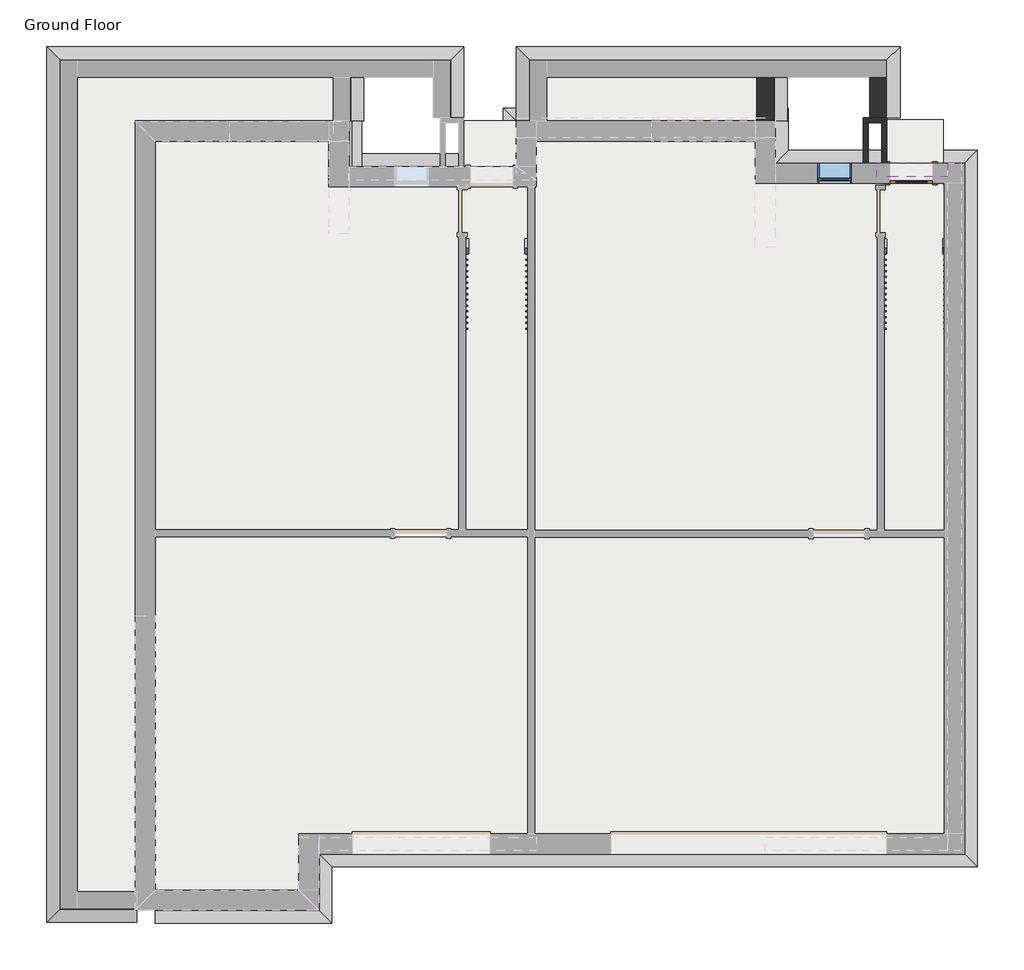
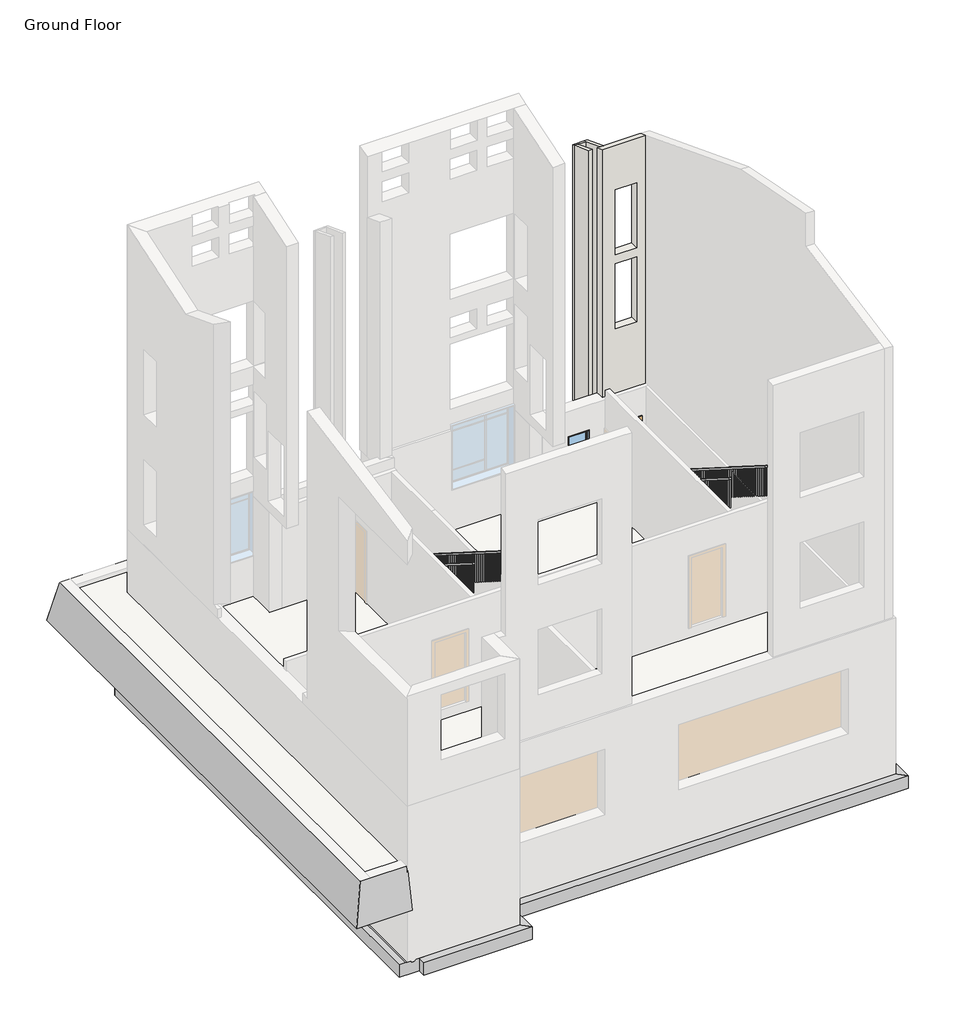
# One storey, part 3 of 3: 21 proxies, 6 walls, 4 railings, 3 slabs, 1 door, 1 window.
"""IFC4 building model written with IfcOpenShell, lengths in millimetres."""

from ifc_helpers import new_model, si_unit, frame, origin, place, context, project, spatial, polyline, outline, extrude, faceted_brep, transform, mapped, element, save
from components import door_13a3dc64, handrail_rectangular_a4179571, handrail_rectangular_83285e33, handrail_rectangular_929c261a, handrail_rectangular_e5931e99, condo_apartment_window3_condo_apartment_window3_d8555c09

model = new_model("IFC4")

# Units and contexts
model_context = context("Model", 3, world=origin())
ifc_project = project(units=[si_unit("LENGTHUNIT", "METRE", prefix="MILLI")], contexts=[model_context])

# Site, building, storey
site = spatial("IfcSite", under=ifc_project)
building = spatial("IfcBuilding", under=site)
storey = spatial("IfcBuildingStorey", under=building, Name="Ground Floor", Elevation=-3352.8)

# Proxies
placement = place(None, origin())
element("IfcBuildingElementProxy", 1, Name="Wall Sweeps", at=placement, inside=storey, context=model_context, shape_type="Brep", body=[
    faceted_brep([(-6803.6497339, 59248.536508, -5054.6), (-6981.4497339, 59070.736508, -5054.6), (-7133.8497339, 58918.336508, -5054.6), (-7174.2608864, 58877.9253554, -5095.0111525), (-7210.0497339, 58842.136508, -5095.0111525), (-7245.8385813, 58806.3476605, -5095.0111525), (-7286.2497339, 58765.936508, -5054.6), (-7616.4497339, 58435.736508, -5054.6), (-7616.4497339, 58435.736508, -5435.6), (-6803.6497339, 59248.536508, -5435.6), (-11038.0747339, 59248.536508, -5054.6), (-11038.0747339, 59248.536508, -5435.6), (-10225.2747339, 58435.736508, -5435.6), (-10225.2747339, 58435.736508, -5054.6), (-10453.8747339, 58664.336508, -5054.6), (-10555.4747339, 58765.936508, -5054.6), (-10595.8858864, 58806.3476605, -5095.0111525), (-10631.6747339, 58842.136508, -5095.0111525), (-10667.4635813, 58877.9253554, -5095.0111525), (-10707.8747339, 58918.336508, -5054.6), (-10809.4747339, 59019.936508, -5054.6), (-10860.2747339, 59070.736508, -5054.6), (-7387.8497339, 58918.336508, -5054.6), (-7387.8497339, 58877.9253554, -5095.0111525), (-7387.8497339, 58806.3476605, -5095.0111525), (-7387.8497339, 58765.936508, -5054.6)], [[[0, 1, 2, 3, 4, 5, 6, 7, 8, 9]], [[10, 11, 12, 13, 14, 15, 16, 17, 18, 19, 20, 21]], [[1, 0, 10, 21]], [[2, 1, 21, 20, 19, 22]], [[3, 2, 22, 19, 18, 23]], [[4, 3, 23, 18, 17]], [[5, 4, 17, 16, 24]], [[6, 5, 24, 16, 15, 25]], [[7, 6, 25, 15, 14, 13]], [[8, 7, 13, 12]], [[9, 8, 12, 11]], [[0, 9, 11, 10]]]),
])
element("IfcBuildingElementProxy", 2, Name="Wall Sweeps", at=placement, inside=storey, context=model_context, shape_type="Brep", body=[
    faceted_brep([(-10453.8747339, 45652.499008, -5054.6), (-10453.8747339, 45652.499008, -5435.6), (-10453.8747339, 44839.699008, -5435.6), (-10453.8747339, 44839.699008, -5054.6), (-10453.8747339, 45169.899008, -5054.6), (-10453.8747339, 45210.3101605, -5095.0111525), (-10453.8747339, 45246.099008, -5095.0111525), (-10453.8747339, 45281.8878554, -5095.0111525), (-10453.8747339, 45322.299008, -5054.6), (-10453.8747339, 45474.699008, -5054.6), (-8146.8997339, 45652.499008, -5054.6), (-7969.0997339, 45474.699008, -5054.6), (-7816.6997339, 45322.299008, -5054.6), (-7776.2885813, 45281.8878554, -5095.0111525), (-7740.4997339, 45246.099008, -5095.0111525), (-7704.7108864, 45210.3101605, -5095.0111525), (-7664.2997339, 45169.899008, -5054.6), (-7334.0997339, 44839.699008, -5054.6), (-7334.0997339, 44839.699008, -5435.6), (-8146.8997339, 45652.499008, -5435.6), (-10225.2747339, 45169.899008, -5054.6), (-10225.2747339, 45210.3101605, -5095.0111525), (-10225.2747339, 45281.8878554, -5095.0111525), (-10225.2747339, 45322.299008, -5054.6)], [[[0, 1, 2, 3, 4, 5, 6, 7, 8, 9]], [[10, 11, 12, 13, 14, 15, 16, 17, 18, 19]], [[1, 0, 10, 19]], [[2, 1, 19, 18]], [[3, 2, 18, 17]], [[4, 3, 17, 16, 20]], [[5, 4, 20, 16, 15, 21]], [[6, 5, 21, 15, 14]], [[7, 6, 14, 13, 22]], [[8, 7, 22, 13, 12, 23]], [[9, 8, 23, 12, 11]], [[0, 9, 11, 10]]]),
])
element("IfcBuildingElementProxy", 3, Name="Wall Sweeps", at=placement, inside=storey, context=model_context, shape_type="Brep", body=[
    faceted_brep([(-8146.8997339, 45652.499008, -5054.6), (-8146.8997339, 45652.499008, -5435.6), (-7334.0997339, 44839.699008, -5435.6), (-7334.0997339, 44839.699008, -5054.6), (-7664.2997339, 45169.899008, -5054.6), (-7704.7108864, 45210.3101605, -5095.0111525), (-7740.4997339, 45246.099008, -5095.0111525), (-7776.2885813, 45281.8878554, -5095.0111525), (-7816.6997339, 45322.299008, -5054.6), (-7969.0997339, 45474.699008, -5054.6), (-8146.8997339, 46648.3255538, -5054.6), (-7969.0997339, 46470.5255538, -5054.6), (-7816.6997339, 46318.1255538, -5054.6), (-7776.2885813, 46277.7144013, -5095.0111525), (-7740.4997339, 46241.9255538, -5095.0111525), (-7704.7108864, 46206.1367064, -5095.0111525), (-7664.2997339, 46165.7255538, -5054.6), (-7334.0997339, 45835.5255538, -5054.6), (-7334.0997339, 45835.5255538, -5435.6), (-8146.8997339, 46648.3255538, -5435.6), (-7664.2997339, 45423.899008, -5054.6), (-7704.7108864, 45423.899008, -5095.0111525), (-7776.2885813, 45423.899008, -5095.0111525), (-7816.6997339, 45423.899008, -5054.6)], [[[0, 1, 2, 3, 4, 5, 6, 7, 8, 9]], [[10, 11, 12, 13, 14, 15, 16, 17, 18, 19]], [[1, 0, 10, 19]], [[2, 1, 19, 18]], [[3, 2, 18, 17]], [[4, 3, 17, 16, 20]], [[5, 4, 20, 16, 15, 21]], [[6, 5, 21, 15, 14]], [[7, 6, 14, 13, 22]], [[8, 7, 22, 13, 12, 23]], [[9, 8, 23, 12, 11]], [[0, 9, 11, 10]]]),
])
element("IfcBuildingElementProxy", 4, Name="Wall Sweeps", at=placement, inside=storey, context=model_context, shape_type="Brep", body=[
    faceted_brep([(-8146.8997339, 46648.3255538, -5054.6), (-8146.8997339, 46648.3255538, -5435.6), (-7334.0997339, 45835.5255538, -5435.6), (-7334.0997339, 45835.5255538, -5054.6), (-7664.2997339, 46165.7255538, -5054.6), (-7704.7108864, 46206.1367064, -5095.0111525), (-7740.4997339, 46241.9255538, -5095.0111525), (-7776.2885813, 46277.7144013, -5095.0111525), (-7816.6997339, 46318.1255538, -5054.6), (-7969.0997339, 46470.5255538, -5054.6), (3261.6480231, 46648.3255538, -5054.6), (3439.4480231, 46470.5255538, -5054.6), (3591.8480231, 46318.1255538, -5054.6), (3632.2591756, 46277.7144013, -5095.0111525), (3668.0480231, 46241.9255538, -5095.0111525), (3703.8368706, 46206.1367064, -5095.0111525), (3744.2480231, 46165.7255538, -5054.6), (4074.4480231, 45835.5255538, -5054.6), (4074.4480231, 45835.5255538, -5435.6), (3261.6480231, 46648.3255538, -5435.6), (-7562.6997339, 46165.7255538, -5054.6), (-7562.6997339, 46206.1367064, -5095.0111525), (-7562.6997339, 46277.7144013, -5095.0111525), (-7562.6997339, 46318.1255538, -5054.6)], [[[0, 1, 2, 3, 4, 5, 6, 7, 8, 9]], [[10, 11, 12, 13, 14, 15, 16, 17, 18, 19]], [[1, 0, 10, 19]], [[2, 1, 19, 18]], [[3, 2, 18, 17]], [[4, 3, 17, 16, 20]], [[5, 4, 20, 16, 15, 21]], [[6, 5, 21, 15, 14]], [[7, 6, 14, 13, 22]], [[8, 7, 22, 13, 12, 23]], [[9, 8, 23, 12, 11]], [[0, 9, 11, 10]]]),
])
element("IfcBuildingElementProxy", 5, Name="Wall Sweeps", at=placement, inside=storey, context=model_context, shape_type="Brep", body=[
    faceted_brep([(3261.6480231, 46648.3255538, -5054.6), (3261.6480231, 46648.3255538, -5435.6), (4074.4480231, 45835.5255538, -5435.6), (4074.4480231, 45835.5255538, -5054.6), (3744.2480231, 46165.7255538, -5054.6), (3703.8368706, 46206.1367064, -5095.0111525), (3668.0480231, 46241.9255538, -5095.0111525), (3632.2591756, 46277.7144013, -5095.0111525), (3591.8480231, 46318.1255538, -5054.6), (3439.4480231, 46470.5255538, -5054.6), (3261.6480231, 57687.7489967, -5054.6), (3439.4480231, 57865.5489967, -5054.6), (3591.8480231, 58017.9489967, -5054.6), (3632.2591756, 58058.3601493, -5095.0111525), (3668.0480231, 58094.1489967, -5095.0111525), (3703.8368706, 58129.9378442, -5095.0111525), (3744.2480231, 58170.3489967, -5054.6), (4074.4480231, 58500.5489967, -5054.6), (4074.4480231, 58500.5489967, -5435.6), (3261.6480231, 57687.7489967, -5435.6), (3744.2480231, 57916.3489967, -5054.6), (3744.2480231, 46419.7255538, -5054.6), (3703.8368706, 57916.3489967, -5095.0111525), (3703.8368706, 46419.7255538, -5095.0111525), (3632.2591756, 57916.3489967, -5095.0111525), (3632.2591756, 46419.7255538, -5095.0111525), (3591.8480231, 57916.3489967, -5054.6), (3591.8480231, 46419.7255538, -5054.6)], [[[0, 1, 2, 3, 4, 5, 6, 7, 8, 9]], [[10, 11, 12, 13, 14, 15, 16, 17, 18, 19]], [[1, 0, 10, 19]], [[2, 1, 19, 18]], [[3, 2, 18, 17]], [[4, 3, 17, 16, 20, 21]], [[5, 4, 21, 20, 16, 15, 22, 23]], [[6, 5, 23, 22, 15, 14]], [[7, 6, 14, 13, 24, 25]], [[8, 7, 25, 24, 13, 12, 26, 27]], [[9, 8, 27, 26, 12, 11]], [[0, 9, 11, 10]]]),
])
element("IfcBuildingElementProxy", 6, Name="Wall Sweeps", at=placement, inside=storey, context=model_context, shape_type="Brep", body=[
    faceted_brep([(-6803.6497339, 59248.536508, -5054.6), (-6803.6497339, 59248.536508, -5435.6), (-7616.4497339, 58435.736508, -5435.6), (-7616.4497339, 58435.736508, -5054.6), (-7286.2497339, 58765.936508, -5054.6), (-7245.8385813, 58806.3476605, -5095.0111525), (-7210.0497339, 58842.136508, -5095.0111525), (-7174.2608864, 58877.9253554, -5095.0111525), (-7133.8497339, 58918.336508, -5054.6), (-6981.4497339, 59070.736508, -5054.6), (-6803.6497339, 58214.7989967, -5054.6), (-6981.4497339, 58214.7989967, -5054.6), (-7133.8497339, 58214.7989967, -5054.6), (-7174.2608864, 58214.7989967, -5095.0111525), (-7210.0497339, 58214.7989967, -5095.0111525), (-7245.8385813, 58214.7989967, -5095.0111525), (-7286.2497339, 58214.7989967, -5054.6), (-7616.4497339, 58214.7989967, -5054.6), (-7616.4497339, 58214.7989967, -5435.6), (-6803.6497339, 58214.7989967, -5435.6), (-7286.2497339, 58443.3989967, -5054.6), (-7245.8385813, 58443.3989967, -5095.0111525), (-7174.2608864, 58443.3989967, -5095.0111525), (-7133.8497339, 58443.3989967, -5054.6)], [[[0, 1, 2, 3, 4, 5, 6, 7, 8, 9]], [[10, 11, 12, 13, 14, 15, 16, 17, 18, 19]], [[1, 0, 10, 19]], [[2, 1, 19, 18]], [[3, 2, 18, 17]], [[4, 3, 17, 16, 20]], [[5, 4, 20, 16, 15, 21]], [[6, 5, 21, 15, 14]], [[7, 6, 14, 13, 22]], [[8, 7, 22, 13, 12, 23]], [[9, 8, 23, 12, 11]], [[0, 9, 11, 10]]]),
])
element("IfcBuildingElementProxy", 7, Name="Wall Sweeps", at=placement, inside=storey, context=model_context, shape_type="Brep", body=[
    faceted_brep([(-3496.7497339, 57630.5989967, -5054.6), (-3674.5497339, 57808.3989967, -5054.6), (-3826.9497339, 57960.7989967, -5054.6), (-3867.3608864, 58001.2101493, -5095.0111525), (-3903.1497339, 58036.9989967, -5095.0111525), (-3938.9385813, 58072.7878442, -5095.0111525), (-3979.3497339, 58113.1989967, -5054.6), (-4309.5497339, 58443.3989967, -5054.6), (-4309.5497339, 58443.3989967, -5435.6), (-3496.7497339, 57630.5989967, -5435.6), (-3496.7497339, 58435.736508, -5054.6), (-3496.7497339, 58435.736508, -5435.6), (-4309.5497339, 59248.536508, -5435.6), (-4309.5497339, 59248.536508, -5054.6), (-3979.3497339, 58918.336508, -5054.6), (-3938.9385813, 58877.9253554, -5095.0111525), (-3903.1497339, 58842.136508, -5095.0111525), (-3867.3608864, 58806.3476605, -5095.0111525), (-3826.9497339, 58765.936508, -5054.6), (-3674.5497339, 58613.536508, -5054.6), (-3826.9497339, 58214.7989967, -5054.6), (-3867.3608864, 58214.7989967, -5095.0111525), (-3938.9385813, 58214.7989967, -5095.0111525), (-3979.3497339, 58214.7989967, -5054.6)], [[[0, 1, 2, 3, 4, 5, 6, 7, 8, 9]], [[10, 11, 12, 13, 14, 15, 16, 17, 18, 19]], [[1, 0, 10, 19]], [[2, 1, 19, 18, 20]], [[3, 2, 20, 18, 17, 21]], [[4, 3, 21, 17, 16]], [[5, 4, 16, 15, 22]], [[6, 5, 22, 15, 14, 23]], [[7, 6, 23, 14, 13]], [[8, 7, 13, 12]], [[9, 8, 12, 11]], [[0, 9, 11, 10]]]),
])
element("IfcBuildingElementProxy", 8, Name="Wall Sweeps", at=placement, inside=storey, context=model_context, shape_type="Brep", body=[
    faceted_brep([(-3496.7497339, 58435.736508, -5054.6), (-3674.5497339, 58613.536508, -5054.6), (-3826.9497339, 58765.936508, -5054.6), (-3867.3608864, 58806.3476605, -5095.0111525), (-3903.1497339, 58842.136508, -5095.0111525), (-3938.9385813, 58877.9253554, -5095.0111525), (-3979.3497339, 58918.336508, -5054.6), (-4309.5497339, 59248.536508, -5054.6), (-4309.5497339, 59248.536508, -5435.6), (-3496.7497339, 58435.736508, -5435.6), (-83.3622339, 58435.736508, -5054.6), (-83.3622339, 58435.736508, -5435.6), (729.4377661, 59248.536508, -5435.6), (729.4377661, 59248.536508, -5054.6), (399.2377661, 58918.336508, -5054.6), (358.8266136, 58877.9253554, -5095.0111525), (323.0377661, 58842.136508, -5095.0111525), (287.2489187, 58806.3476605, -5095.0111525), (246.8377661, 58765.936508, -5054.6), (94.4377661, 58613.536508, -5054.6), (145.2377661, 58765.936508, -5054.6), (-3725.3497339, 58765.936508, -5054.6), (145.2377661, 58806.3476605, -5095.0111525), (-3725.3497339, 58806.3476605, -5095.0111525), (145.2377661, 58877.9253554, -5095.0111525), (-3725.3497339, 58877.9253554, -5095.0111525), (145.2377661, 58918.336508, -5054.6), (-3725.3497339, 58918.336508, -5054.6)], [[[0, 1, 2, 3, 4, 5, 6, 7, 8, 9]], [[10, 11, 12, 13, 14, 15, 16, 17, 18, 19]], [[1, 0, 10, 19]], [[2, 1, 19, 18, 20, 21]], [[3, 2, 21, 20, 18, 17, 22, 23]], [[4, 3, 23, 22, 17, 16]], [[5, 4, 16, 15, 24, 25]], [[6, 5, 25, 24, 15, 14, 26, 27]], [[7, 6, 27, 26, 14, 13]], [[8, 7, 13, 12]], [[9, 8, 12, 11]], [[0, 9, 11, 10]]]),
])
element("IfcBuildingElementProxy", 9, Name="Wall Sweeps", at=placement, inside=storey, context=model_context, shape_type="Brep", body=[
    faceted_brep([(-83.3622339, 58435.736508, -5054.6), (94.4377661, 58613.536508, -5054.6), (246.8377661, 58765.936508, -5054.6), (287.2489187, 58806.3476605, -5095.0111525), (323.0377661, 58842.136508, -5095.0111525), (358.8266136, 58877.9253554, -5095.0111525), (399.2377661, 58918.336508, -5054.6), (729.4377661, 59248.536508, -5054.6), (729.4377661, 59248.536508, -5435.6), (-83.3622339, 58435.736508, -5435.6), (-83.3622339, 57687.7489967, -5054.6), (-83.3622339, 57687.7489967, -5435.6), (729.4377661, 58500.5489967, -5435.6), (729.4377661, 58500.5489967, -5054.6), (399.2377661, 58170.3489967, -5054.6), (358.8266136, 58129.9378442, -5095.0111525), (323.0377661, 58094.1489967, -5095.0111525), (287.2489187, 58058.3601493, -5095.0111525), (246.8377661, 58017.9489967, -5054.6), (94.4377661, 57865.5489967, -5054.6)], [[[0, 1, 2, 3, 4, 5, 6, 7, 8, 9]], [[10, 11, 12, 13, 14, 15, 16, 17, 18, 19]], [[1, 0, 10, 19]], [[2, 1, 19, 18]], [[3, 2, 18, 17]], [[4, 3, 17, 16]], [[5, 4, 16, 15]], [[6, 5, 15, 14]], [[7, 6, 14, 13]], [[8, 7, 13, 12]], [[9, 8, 12, 11]], [[0, 9, 11, 10]]]),
])
element("IfcBuildingElementProxy", 10, Name="Wall Sweeps", at=placement, inside=storey, context=model_context, shape_type="Brep", body=[
    faceted_brep([(-83.3622339, 57687.7489967, -5054.6), (94.4377661, 57865.5489967, -5054.6), (246.8377661, 58017.9489967, -5054.6), (287.2489187, 58058.3601493, -5095.0111525), (323.0377661, 58094.1489967, -5095.0111525), (358.8266136, 58129.9378442, -5095.0111525), (399.2377661, 58170.3489967, -5054.6), (729.4377661, 58500.5489967, -5054.6), (729.4377661, 58500.5489967, -5435.6), (-83.3622339, 57687.7489967, -5435.6), (3261.6480231, 57687.7489967, -5054.6), (3261.6480231, 57687.7489967, -5435.6), (4074.4480231, 58500.5489967, -5435.6), (4074.4480231, 58500.5489967, -5054.6), (3744.2480231, 58170.3489967, -5054.6), (3703.8368706, 58129.9378442, -5095.0111525), (3668.0480231, 58094.1489967, -5095.0111525), (3632.2591756, 58058.3601493, -5095.0111525), (3591.8480231, 58017.9489967, -5054.6), (3439.4480231, 57865.5489967, -5054.6), (500.8377661, 58017.9489967, -5054.6), (500.8377661, 58058.3601493, -5095.0111525), (500.8377661, 58129.9378442, -5095.0111525), (500.8377661, 58170.3489967, -5054.6)], [[[0, 1, 2, 3, 4, 5, 6, 7, 8, 9]], [[10, 11, 12, 13, 14, 15, 16, 17, 18, 19]], [[1, 0, 10, 19]], [[2, 1, 19, 18, 20]], [[3, 2, 20, 18, 17, 21]], [[4, 3, 21, 17, 16]], [[5, 4, 16, 15, 22]], [[6, 5, 22, 15, 14, 23]], [[7, 6, 23, 14, 13]], [[8, 7, 13, 12]], [[9, 8, 12, 11]], [[0, 9, 11, 10]]]),
])
element("IfcBuildingElementProxy", 11, Name="Wall Sweeps", at=placement, inside=storey, context=model_context, shape_type="Brep", body=[
    faceted_brep([(-7387.8497339, 57630.5989967, -5054.6), (-7387.8497339, 57808.3989967, -5054.6), (-7387.8497339, 57960.7989967, -5054.6), (-7387.8497339, 58001.2101493, -5095.0111525), (-7387.8497339, 58036.9989967, -5095.0111525), (-7387.8497339, 58072.7878442, -5095.0111525), (-7387.8497339, 58113.1989967, -5054.6), (-7387.8497339, 58443.3989967, -5054.6), (-7387.8497339, 58443.3989967, -5435.6), (-7387.8497339, 57630.5989967, -5435.6), (-3496.7497339, 57630.5989967, -5054.6), (-3496.7497339, 57630.5989967, -5435.6), (-4309.5497339, 58443.3989967, -5435.6), (-4309.5497339, 58443.3989967, -5054.6), (-3979.3497339, 58113.1989967, -5054.6), (-3938.9385813, 58072.7878442, -5095.0111525), (-3903.1497339, 58036.9989967, -5095.0111525), (-3867.3608864, 58001.2101493, -5095.0111525), (-3826.9497339, 57960.7989967, -5054.6), (-3674.5497339, 57808.3989967, -5054.6), (-7032.2497339, 57960.7989967, -5054.6), (-7032.2497339, 58001.2101493, -5095.0111525), (-7032.2497339, 58072.7878442, -5095.0111525), (-7032.2497339, 58113.1989967, -5054.6)], [[[0, 1, 2, 3, 4, 5, 6, 7, 8, 9]], [[10, 11, 12, 13, 14, 15, 16, 17, 18, 19]], [[1, 0, 10, 19]], [[2, 1, 19, 18, 20]], [[3, 2, 20, 18, 17, 21]], [[4, 3, 21, 17, 16]], [[5, 4, 16, 15, 22]], [[6, 5, 22, 15, 14, 23]], [[7, 6, 23, 14, 13]], [[8, 7, 13, 12]], [[9, 8, 12, 11]], [[0, 9, 11, 10]]]),
])
element("IfcBuildingElementProxy", 12, Name="Wall Sweeps", at=placement, inside=storey, context=model_context, shape_type="Brep", body=[
    faceted_brep([(-11038.0747339, 59248.536508, -5054.6), (-10860.2747339, 59070.736508, -5054.6), (-10809.4747339, 59019.936508, -5054.6), (-10707.8747339, 58918.336508, -5054.6), (-10667.4635813, 58877.9253554, -5095.0111525), (-10631.6747339, 58842.136508, -5095.0111525), (-10595.8858864, 58806.3476605, -5095.0111525), (-10555.4747339, 58765.936508, -5054.6), (-10453.8747339, 58664.336508, -5054.6), (-10225.2747339, 58435.736508, -5054.6), (-10225.2747339, 58435.736508, -5435.6), (-11038.0747339, 59248.536508, -5435.6), (-11038.0747339, 45068.299008, -5054.6), (-11038.0747339, 45068.299008, -5435.6), (-10225.2747339, 45068.299008, -5435.6), (-10225.2747339, 45068.299008, -5054.6), (-10555.4747339, 45068.299008, -5054.6), (-10595.8858864, 45068.299008, -5095.0111525), (-10631.6747339, 45068.299008, -5095.0111525), (-10667.4635813, 45068.299008, -5095.0111525), (-10707.8747339, 45068.299008, -5054.6), (-10860.2747339, 45068.299008, -5054.6), (-10707.8747339, 45169.899008, -5054.6), (-10667.4635813, 45210.3101605, -5095.0111525), (-10595.8858864, 45281.8878554, -5095.0111525), (-10555.4747339, 45322.299008, -5054.6)], [[[0, 1, 2, 3, 4, 5, 6, 7, 8, 9, 10, 11]], [[12, 13, 14, 15, 16, 17, 18, 19, 20, 21]], [[1, 0, 12, 21]], [[3, 2, 1, 21, 20, 22]], [[4, 3, 22, 20, 19, 23]], [[5, 4, 23, 19, 18]], [[6, 5, 18, 17, 24]], [[7, 6, 24, 17, 16, 25]], [[9, 8, 7, 25, 16, 15]], [[10, 9, 15, 14]], [[11, 10, 14, 13]], [[0, 11, 13, 12]]]),
])
element("IfcBuildingElementProxy", 13, Name="Wall Sweeps", at=placement, inside=storey, context=model_context, shape_type="Brep", body=[
    faceted_brep([(-12378.5249686, 44856.7105351, -3352.8), (-12141.5364957, 45093.699008, -3352.8), (-12141.5364957, 45093.699008, -2133.6), (-12378.5249686, 60335.7374809, -3352.8), (-12141.5364957, 60098.749008, -2133.6), (-12141.5364957, 60098.749008, -3352.8)], [[[0, 1, 2]], [[3, 4, 5]], [[1, 0, 3, 5]], [[2, 1, 5, 4]], [[0, 2, 4, 3]]]),
])
element("IfcBuildingElementProxy", 14, Name="Wall Sweeps", at=placement, inside=storey, context=model_context, shape_type="Brep", body=[
    faceted_brep([(-12378.5249686, 60335.7374809, -3352.8), (-12141.5364957, 60098.749008, -3352.8), (-12141.5364957, 60098.749008, -2133.6), (-5004.3411158, 60335.7374809, -3352.8), (-5241.3295887, 60098.749008, -2133.6), (-5241.3295887, 60098.749008, -3352.8), (-5546.1295887, 60098.749008, -3352.8), (-11836.7364957, 60098.749008, -3352.8)], [[[0, 1, 2]], [[3, 4, 5]], [[1, 0, 3, 5, 6, 7]], [[2, 1, 7, 6, 5, 4]], [[0, 2, 4, 3]]]),
])
element("IfcBuildingElementProxy", 15, Name="Wall Sweeps", at=placement, inside=storey, context=model_context, shape_type="Brep", body=[
    faceted_brep([(-5004.3411158, 60335.7374809, -3352.8), (-5241.3295887, 60098.749008, -3352.8), (-5241.3295887, 60098.749008, -2133.6), (-5004.3411158, 59074.111508, -3352.8), (-5241.3295887, 59074.111508, -2133.6), (-5241.3295887, 59074.111508, -3352.8)], [[[0, 1, 2]], [[3, 4, 5]], [[1, 0, 3, 5]], [[2, 1, 5, 4]], [[0, 2, 4, 3]]]),
])
element("IfcBuildingElementProxy", 16, Name="Wall Sweeps", at=placement, inside=storey, context=model_context, shape_type="Brep", body=[
    faceted_brep([(-4080.9497339, 59019.936508, -3352.8), (-3843.961261, 59019.936508, -3352.8), (-3843.961261, 59019.936508, -2133.6), (-4080.9497339, 60335.7374809, -3352.8), (-3843.961261, 60098.749008, -2133.6), (-3843.961261, 60098.749008, -3352.8)], [[[0, 1, 2]], [[3, 4, 5]], [[1, 0, 3, 5]], [[2, 1, 5, 4]], [[0, 2, 4, 3]]]),
])
element("IfcBuildingElementProxy", 17, Name="Wall Sweeps", at=placement, inside=storey, context=model_context, shape_type="Brep", body=[
    faceted_brep([(-4080.9497339, 60335.7374809, -3352.8), (-3843.961261, 60098.749008, -3352.8), (-3843.961261, 60098.749008, -2133.6), (2708.5390328, 60335.7374809, -3352.8), (2471.5505599, 60098.749008, -2133.6), (2471.5505599, 60098.749008, -3352.8), (-3539.161261, 60098.749008, -3352.8)], [[[0, 1, 2]], [[3, 4, 5]], [[1, 0, 3, 5, 6]], [[2, 1, 6, 5, 4]], [[0, 2, 4, 3]]]),
])
element("IfcBuildingElementProxy", 18, Name="Wall Sweeps", at=placement, inside=storey, context=model_context, shape_type="Brep", body=[
    faceted_brep([(2708.5390328, 60335.7374809, -3352.8), (2471.5505599, 60098.749008, -3352.8), (2471.5505599, 60098.749008, -2133.6), (2708.5390328, 59074.111508, -3352.8), (2471.5505599, 59074.111508, -2133.6), (2471.5505599, 59074.111508, -3352.8), (2471.5505599, 59793.949008, -3352.8)], [[[0, 1, 2]], [[3, 4, 5]], [[1, 0, 3, 5, 6]], [[2, 1, 6, 5, 4]], [[0, 2, 4, 3]]]),
])
element("IfcBuildingElementProxy", 19, Name="Wall Sweeps", at=placement, inside=storey, context=model_context, shape_type="SweptSolid", body=[
    extrude(outline(polyline([(-3352.8, -6769.861261), (-2133.6, -7006.8497339), (-3352.8, -7006.8497339), (-3352.8, -6769.861261)])), frame((0.0, 59019.936508, 0.0), z_axis=(0.0, 1.0, 0.0), x_axis=(0.0, 0.0, 1.0)), (0.0, 0.0, 1.0), 774.0125),
])
element("IfcBuildingElementProxy", 20, Name="Wall Sweeps", at=placement, inside=storey, context=model_context, shape_type="SweptSolid", body=[
    extrude(outline(polyline([(-3352.8, 712.426239), (-2133.6, 475.4377661), (-3352.8, 475.4377661), (-3352.8, 712.426239)])), frame((0.0, 59019.936508, 0.0), z_axis=(0.0, 1.0, 0.0), x_axis=(0.0, 0.0, 1.0)), (0.0, 0.0, 1.0), 774.0125),
])
element("IfcBuildingElementProxy", 21, Name="Wall Sweeps", at=placement, inside=storey, context=model_context, shape_type="Brep", body=[
    faceted_brep([(-12378.5249686, 44856.7105351, -3352.8), (-12141.5364957, 45093.699008, -2133.6), (-12141.5364957, 45093.699008, -3352.8), (-10785.6622339, 44856.7105351, -3352.8), (-10785.6622339, 45093.699008, -3352.8), (-10785.6622339, 45093.699008, -2133.6), (-11836.7364957, 45093.699008, -3352.8)], [[[0, 1, 2]], [[3, 4, 5]], [[1, 0, 3, 5]], [[2, 1, 5, 4, 6]], [[0, 2, 6, 4, 3]]]),
])

# Door
door_shape = door_13a3dc64(model_context)
element("IfcDoor", 22, ObjectType="Single-Glass 1 : 30\" x 84\"", at=placement, inside=storey, context=model_context, shape_type="MappedRepresentation", body=[
    mapped(door_shape, transform((2906.0480231, 58094.1489967, -3352.8), x_axis=(-1.0, 0.0, 0.0), y_axis=(0.0, -1.0, 0.0), z_axis=(0.0, 0.0, 1.0))),
])

# Railings
handrail_rectangular_shape = handrail_rectangular_a4179571(model_context)
element("IfcRailing", 23, ObjectType="Handrail - Rectangular", at=placement, inside=storey, context=model_context, shape_type="MappedRepresentation", body=[
    mapped(handrail_rectangular_shape, transform((0.0, 0.0, 0.0), x_axis=(1.0, 0.0, 0.0), y_axis=(0.0, 1.0, 0.0), z_axis=(0.0, 0.0, 1.0))),
])
handrail_rectangular_2_shape = handrail_rectangular_83285e33(model_context)
element("IfcRailing", 24, ObjectType="Handrail - Rectangular", at=placement, inside=storey, context=model_context, shape_type="MappedRepresentation", body=[
    mapped(handrail_rectangular_2_shape, transform((0.0, 0.0, 0.0), x_axis=(1.0, 0.0, 0.0), y_axis=(0.0, 1.0, 0.0), z_axis=(0.0, 0.0, 1.0))),
])
handrail_rectangular_3_shape = handrail_rectangular_929c261a(model_context)
element("IfcRailing", 25, ObjectType="Handrail - Rectangular", at=placement, inside=storey, context=model_context, shape_type="MappedRepresentation", body=[
    mapped(handrail_rectangular_3_shape, transform((0.0, 0.0, 0.0), x_axis=(1.0, 0.0, 0.0), y_axis=(0.0, 1.0, 0.0), z_axis=(0.0, 0.0, 1.0))),
])
handrail_rectangular_4_shape = handrail_rectangular_e5931e99(model_context)
element("IfcRailing", 26, ObjectType="Handrail - Rectangular", at=placement, inside=storey, context=model_context, shape_type="MappedRepresentation", body=[
    mapped(handrail_rectangular_4_shape, transform((0.0, 0.0, 0.0), x_axis=(1.0, 0.0, 0.0), y_axis=(0.0, 1.0, 0.0), z_axis=(0.0, 0.0, 1.0))),
])

# Slabs
element("IfcSlab", 27, ObjectType="Generic - 12\"", at=placement, inside=storey, context=model_context, shape_type="SweptSolid", body=[
    extrude(outline(polyline([(-7387.8497339, 58664.336508), (-7387.8497339, 57859.199008), (-5004.3411158, 57859.199008), (-5004.3411158, 59020.686508), (-4080.9497339, 59020.686508), (-4080.9497339, 58214.7989967), (-4131.7497339, 58214.7989967), (-4131.7497339, 57859.199008), (-3725.3497339, 57859.199008), (-3725.3497339, 58664.336508), (145.2377661, 58664.336508), (145.2377661, 57916.3489967), (2471.5505599, 57916.3489967), (2471.5505599, 59039.736508), (3468.5963842, 59039.361508), (3468.5963842, 57884.5989967), (3490.2480231, 57884.5989967), (3490.2480229, 46419.7255538), (-7918.2997339, 46419.7255538), (-7918.2997339, 45423.899008), (-10455.4622339, 45423.899008), (-10455.4622339, 58664.336508), (-7387.8497339, 58664.336508)])), frame((0.0, 0.0, -3657.6), z_axis=(0.0, 0.0, 1.0), x_axis=(1.0, 0.0, 0.0)), (0.0, 0.0, 1.0), 304.8),
])
element("IfcSlab", 28, ObjectType="Grass", at=placement, inside=storey, context=model_context, shape_type="SweptSolid", body=[
    extrude(outline(polyline([(-7311.6497339, 59793.949008), (-7311.6497339, 59019.936508), (-10811.0622339, 59019.936508), (-10811.0622339, 45398.499008), (-11836.7364957, 45398.499008), (-11836.7364957, 59793.949008), (-7311.6497339, 59793.949008)])), frame((0.0, 0.0, -2278.2), z_axis=(0.0, 0.0, 1.0), x_axis=(1.0, 0.0, 0.0)), (0.0, 0.0, 1.0), 25.4),
])
element("IfcSlab", 29, ObjectType="Grass", at=placement, inside=storey, context=model_context, shape_type="SweptSolid", body=[
    extrude(outline(polyline([(-3539.161261, 59793.949008), (170.6377661, 59793.949008), (170.6377661, 59019.936508), (-3539.161261, 59019.936508), (-3539.161261, 59793.949008)])), frame((0.0, 0.0, -2278.2), z_axis=(0.0, 0.0, 1.0), x_axis=(1.0, 0.0, 0.0)), (0.0, 0.0, 1.0), 25.4),
])

# Walls
element("IfcWall", 30, ObjectType="Exterior - Brick - Gray", at=placement, inside=storey, context=model_context, shape_type="Brep", body=[
    faceted_brep([(2471.5505599, 58271.9489967, -3352.8), (2471.5505599, 59074.111508, -3352.8), (2471.5505599, 59074.111508, 6846.4925469), (2471.5505599, 58271.9489967, 7155.302725), (2382.6505599, 58271.9489967, -3352.8), (2382.6505599, 58271.9489967, 7155.302725), (2382.6505599, 58985.211508, 6880.7165657), (2382.6505599, 59074.111508, 6846.4925469), (2382.6505599, 59074.111508, -3352.8), (2382.6505599, 58985.211508, -3352.8)], [[[0, 1, 2, 3]], [[4, 5, 6, 7, 8, 9]], [[1, 0, 4, 9, 8]], [[0, 3, 5, 4]], [[2, 1, 8, 7]], [[3, 2, 7, 6, 5]]]),
])
element("IfcWall", 31, ObjectType="Exterior - Brick - Gray", at=placement, inside=storey, context=model_context, shape_type="Brep", body=[
    faceted_brep([(2382.6505599, 59074.111508, -3352.8), (2053.7088842, 59074.111508, -3352.8), (2053.7088842, 59074.111508, 6846.4925469), (2382.6505599, 59074.111508, 6846.4925469), (2382.6505599, 58985.211508, -3352.8), (2382.6505599, 58985.211508, 6880.7165657), (2142.6088842, 58985.211508, 6880.7165657), (2053.7088842, 58985.211508, 6880.7165657), (2053.7088842, 58985.211508, -3352.8), (2142.6088842, 58985.211508, -3352.8)], [[[0, 1, 2, 3]], [[4, 5, 6, 7, 8, 9]], [[1, 0, 4, 9, 8]], [[2, 1, 8, 7]], [[0, 3, 5, 4]], [[3, 2, 7, 6, 5]]]),
])
element("IfcWall", 32, ObjectType="Exterior - Brick - Gray", at=placement, inside=storey, context=model_context, shape_type="SweptSolid", body=[
    extrude(outline(polyline([(58985.211508, -3352.8), (58271.9489967, -3352.8), (58271.9489967, 7155.302725), (58985.211508, 6880.7165657), (58985.211508, -3352.8)])), frame((2053.7088842, 0.0, 0.0), z_axis=(1.0, 0.0, 0.0), x_axis=(0.0, 1.0, 0.0)), (0.0, 0.0, 1.0), 88.9),
])
element("IfcWall", 33, ObjectType="Exterior - Stucco", at=placement, inside=storey, context=model_context, shape_type="Brep", body=[
    faceted_brep([(2291.2838842, 58030.6489967, -304.8), (3547.3980231, 58030.6489967, -304.8), (3547.3980231, 58030.6489967, 7248.1964902), (2291.2838842, 58030.6489967, 7248.1964902), (3284.7507974, 58030.6489967, 3632.2), (3284.7507974, 58030.6489967, 1651.0), (2675.1507974, 58030.6489967, 1651.0), (2675.1507974, 58030.6489967, 3632.2), (3284.7507974, 58030.6489967, 5892.8), (3284.7507974, 58030.6489967, 3911.6), (2675.1507974, 58030.6489967, 3911.6), (2675.1507974, 58030.6489967, 5892.8), (2291.2838842, 58271.9489967, -304.8), (2291.2838842, 58271.9489967, 0.0), (2291.2838842, 58271.9489967, 7155.302725), (3547.3980231, 58271.9489967, 7155.302725), (3547.3980231, 58271.9489967, -304.8), (3284.7507974, 58271.9489967, 3632.2), (2675.1507974, 58271.9489967, 3632.2), (2675.1507974, 58271.9489967, 1651.0), (3284.7507974, 58271.9489967, 1651.0), (3284.7507974, 58271.9489967, 5892.8), (2675.1507974, 58271.9489967, 5892.8), (2675.1507974, 58271.9489967, 3911.6), (3284.7507974, 58271.9489967, 3911.6)], [[[0, 1, 2, 3], [4, 5, 6, 7], [8, 9, 10, 11]], [[12, 13, 14, 15, 16], [17, 18, 19, 20], [21, 22, 23, 24]], [[1, 0, 12, 16]], [[0, 3, 14, 13, 12]], [[2, 1, 16, 15]], [[3, 2, 15, 14]], [[5, 4, 17, 20]], [[6, 5, 20, 19]], [[7, 6, 19, 18]], [[4, 7, 18, 17]], [[9, 8, 21, 24]], [[10, 9, 24, 23]], [[11, 10, 23, 22]], [[8, 11, 22, 21]]]),
])
element("IfcWall", 34, ObjectType="Retaining - Stone", at=placement, inside=storey, context=model_context, shape_type="SweptSolid", body=[
    extrude(outline(polyline([(2166.7505599, 59074.111508), (2166.7505599, 59793.949008), (2471.5505599, 59793.949008), (2471.5505599, 59074.111508), (2166.7505599, 59074.111508)])), frame((0.0, 0.0, -3352.8), z_axis=(0.0, 0.0, 1.0), x_axis=(1.0, 0.0, 0.0)), (0.0, 0.0, 1.0), 1219.2),
])
element("IfcWall", 35, ObjectType="Retaining - Stone", at=placement, inside=storey, context=model_context, shape_type="SweptSolid", body=[
    extrude(outline(polyline([(170.6377661, 59019.936508), (170.6377661, 59793.949008), (475.4377661, 59793.949008), (475.4377661, 59019.936508), (170.6377661, 59019.936508)])), frame((0.0, 0.0, -3352.8), z_axis=(0.0, 0.0, 1.0), x_axis=(1.0, 0.0, 0.0)), (0.0, 0.0, 1.0), 1219.2),
])

# Window
condo_apartment_window3_condo_apartment_window3_shape = condo_apartment_window3_condo_apartment_window3_d8555c09(model_context)
element("IfcWindow", 36, ObjectType="Condo - Apartment Window3 : Condo - Apartment Window3", at=placement, inside=storey, context=model_context, shape_type="MappedRepresentation", body=[
    mapped(condo_apartment_window3_condo_apartment_window3_shape, transform((1513.4088842, 58094.1489967, -3340.1), x_axis=(-1.0, 0.0, 0.0), y_axis=(0.0, -1.0, 0.0), z_axis=(0.0, 0.0, 1.0))),
])

save(model, "model.ifc")
